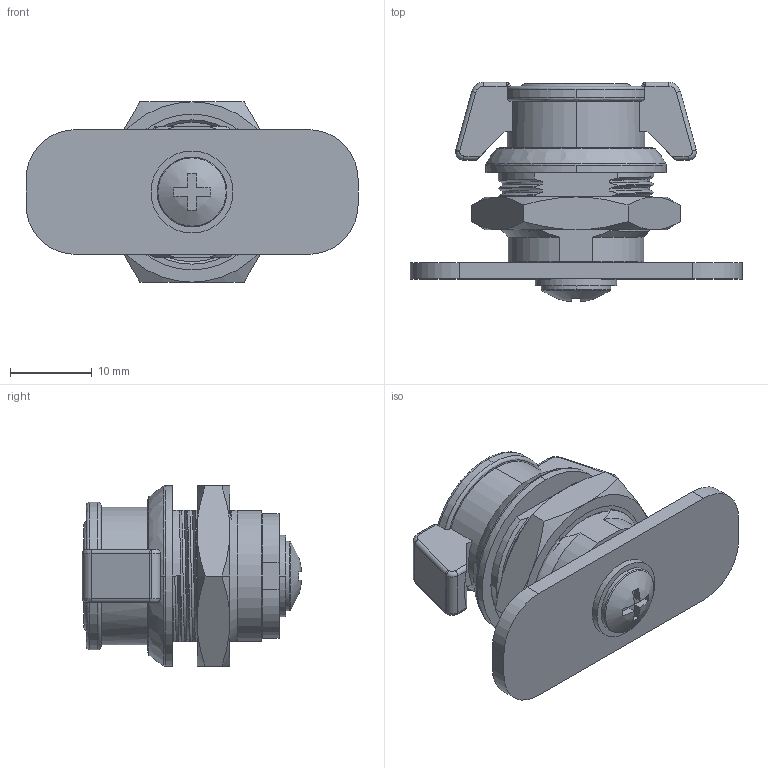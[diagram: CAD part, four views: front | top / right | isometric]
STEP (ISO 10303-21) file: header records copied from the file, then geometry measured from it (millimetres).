
FILE_DESCRIPTION (( 'STEP AP203' ), '1' );
FILE_NAME ('MS815-3A_ASM.STEP', '2017-06-07T01:02:18', ( 'China' ), ( 'User' ), 'SwSTEP 2.0', 'SolidWorks 2014', '' );
FILE_SCHEMA (( 'CONFIG_CONTROL_DESIGN' ));
Length unit declared in the file: millimetre
Products named in the file (16): INSERT; WASHER; INSERT-ZU_ASM; O-RING; HANDLE; CAM1; MS815-3A_ASM; LEAF1_0; LEAF2; HOUSING; STATOR; M19X1; LEAF1_5; CROSSBAR; COVER; SCREW
Assembly tree (16 placements, depth 3):
  MS815-3A_ASM
    HOUSING
    M19X1
    CROSSBAR
    SCREW  x2
    WASHER
    O-RING
    CAM1
    INSERT-ZU_ASM
      LEAF1_0
      LEAF2
      STATOR
      LEAF1_5
      COVER
      INSERT
    HANDLE
Bounding box: 40.5 x 26.76 x 22 mm (x, y, z)
Volume: 3876.8 mm3; surface area: 10134.1 mm2
Topology: 11 solids, 19 shells, 552 faces, 1514 edges, 984 vertices
Faces by surface type: plane 278, cylinder 140, bspline 97, cone 33, torus 4
Entity records: 32692 total; most frequent: CARTESIAN_POINT 18032, ORIENTED_EDGE 2872, DIRECTION 2496, EDGE_CURVE 1442, VERTEX_POINT 942, AXIS2_PLACEMENT_3D 878, LINE 740, VECTOR 740
